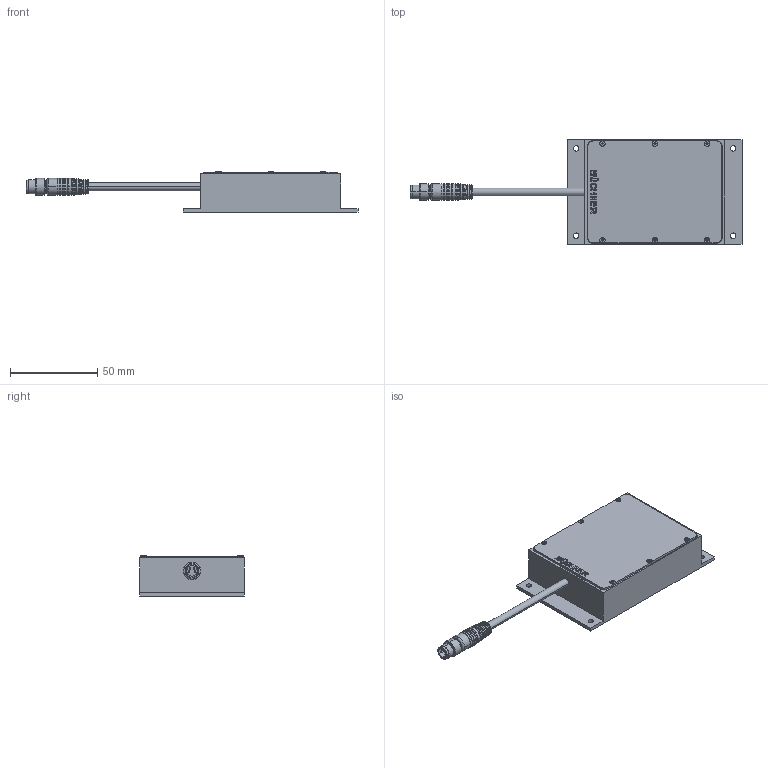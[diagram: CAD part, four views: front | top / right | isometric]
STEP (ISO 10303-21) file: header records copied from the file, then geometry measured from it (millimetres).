
FILE_DESCRIPTION(('STEP AP214'),'1');
FILE_NAME('Z:/Spaceclaim-Entwürfe/HI-LIGHT-6_II/HI-LIGHT-6_II_Kundenzeichnung.stp','2015-07-24T08:20:30',(' '),(' '),'Spatial InterOp 3D',' ',' ');
FILE_SCHEMA(('automotive_design'));
Length unit declared in the file: metre
Products named in the file (1): 1
Bounding box: 190.16 x 60 x 23.1 mm (x, y, z)
Volume: 47961 mm3; surface area: 34517.6 mm2
Topology: 1 solids, 4 shells, 570 faces, 1544 edges, 986 vertices
Faces by surface type: plane 272, cylinder 104, torus 90, cone 76, extrusion 20, sphere 8
Entity records: 23675 total; most frequent: CARTESIAN_POINT 4495, DIRECTION 3124, ORIENTED_EDGE 3056, EDGE_CURVE 1528, AXIS2_PLACEMENT_3D 1161, VERTEX_POINT 986, VECTOR 802, LINE 782
